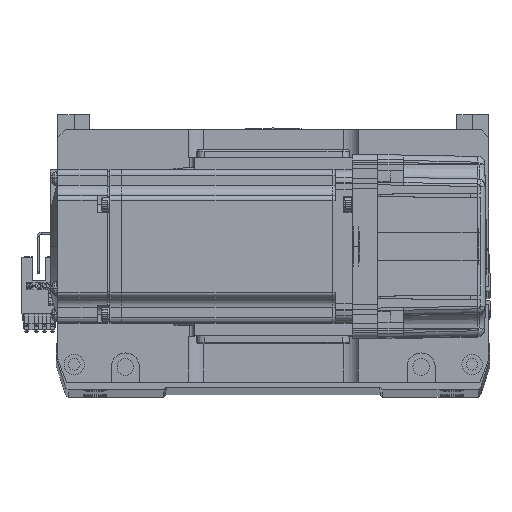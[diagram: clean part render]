
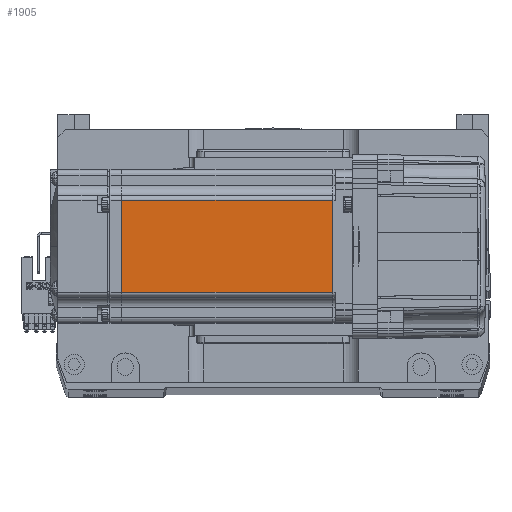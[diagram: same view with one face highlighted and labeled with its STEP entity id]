
A CAD part, top view. The second image highlights one B-rep face of the part: STEP entity #1905.
In plain terms, the highlighted planar face has unit normal (0, 0, 1).
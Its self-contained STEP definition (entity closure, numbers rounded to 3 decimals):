
#1905 = ADVANCED_FACE ( 'NONE', ( #13467 ), #29671, .T. ) ;
#1998 = LINE ( 'NONE', #35830, #35195 ) ;
#4228 = VECTOR ( 'NONE', #50543, 1000. ) ;
#6369 = EDGE_LOOP ( 'NONE', ( #54580, #34133, #37369, #43096 ) ) ;
#7566 = VECTOR ( 'NONE', #42077, 1000. ) ;
#13467 = FACE_OUTER_BOUND ( 'NONE', #6369, .T. ) ;
#13587 = DIRECTION ( 'NONE',  ( 1., 0., 0. ) ) ;
#16888 = AXIS2_PLACEMENT_3D ( 'NONE', #24360, #43747, #13587 ) ;
#22530 = CARTESIAN_POINT ( 'NONE',  ( -7.75, -18., 30. ) ) ;
#23789 = VERTEX_POINT ( 'NONE', #44612 ) ;
#24360 = CARTESIAN_POINT ( 'NONE',  ( -6.5, -25., 30. ) ) ;
#25655 = EDGE_CURVE ( 'NONE', #42937, #57903, #61851, .T. ) ;
#29671 = PLANE ( 'NONE',  #16888 ) ;
#31120 = LINE ( 'NONE', #40205, #4228 ) ;
#34133 = ORIENTED_EDGE ( 'NONE', *, *, #25655, .T. ) ;
#34298 = CARTESIAN_POINT ( 'NONE',  ( -7.75, 18., 30. ) ) ;
#34588 = CARTESIAN_POINT ( 'NONE',  ( -6.5, -18., 30. ) ) ;
#35071 = VECTOR ( 'NONE', #55829, 1000. ) ;
#35195 = VECTOR ( 'NONE', #60908, 1000. ) ;
#35369 = EDGE_CURVE ( 'NONE', #57058, #23789, #47772, .T. ) ;
#35830 = CARTESIAN_POINT ( 'NONE',  ( -90.45, 0., 30. ) ) ;
#37369 = ORIENTED_EDGE ( 'NONE', *, *, #58967, .T. ) ;
#40123 = CARTESIAN_POINT ( 'NONE',  ( -90.45, 18., 30. ) ) ;
#40205 = CARTESIAN_POINT ( 'NONE',  ( -7.75, 0., 30. ) ) ;
#42077 = DIRECTION ( 'NONE',  ( -1., 0., 0. ) ) ;
#42937 = VERTEX_POINT ( 'NONE', #34298 ) ;
#43096 = ORIENTED_EDGE ( 'NONE', *, *, #35369, .F. ) ;
#43747 = DIRECTION ( 'NONE',  ( 0., 0., 1. ) ) ;
#44612 = CARTESIAN_POINT ( 'NONE',  ( -90.45, -18., 30. ) ) ;
#47772 = LINE ( 'NONE', #34588, #7566 ) ;
#50543 = DIRECTION ( 'NONE',  ( 0., -1., 0. ) ) ;
#51010 = CARTESIAN_POINT ( 'NONE',  ( -6.5, 18., 30. ) ) ;
#54580 = ORIENTED_EDGE ( 'NONE', *, *, #59911, .F. ) ;
#55829 = DIRECTION ( 'NONE',  ( -1., 0., 0. ) ) ;
#57058 = VERTEX_POINT ( 'NONE', #22530 ) ;
#57903 = VERTEX_POINT ( 'NONE', #40123 ) ;
#58967 = EDGE_CURVE ( 'NONE', #57903, #23789, #1998, .T. ) ;
#59911 = EDGE_CURVE ( 'NONE', #42937, #57058, #31120, .T. ) ;
#60908 = DIRECTION ( 'NONE',  ( 0., -1., 0. ) ) ;
#61851 = LINE ( 'NONE', #51010, #35071 ) ;
